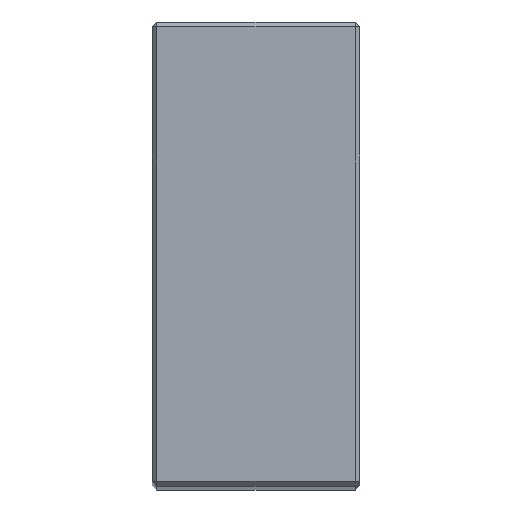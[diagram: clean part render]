
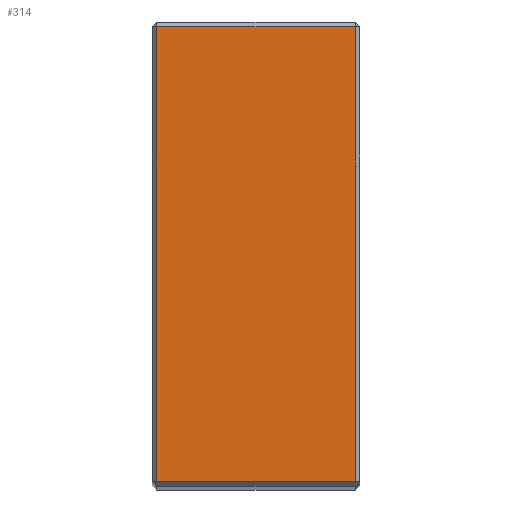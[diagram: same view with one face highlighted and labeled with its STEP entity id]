
A CAD part, top view. The second image highlights one B-rep face of the part: STEP entity #314.
In plain terms, the highlighted planar face has unit normal (0, 0, 1).
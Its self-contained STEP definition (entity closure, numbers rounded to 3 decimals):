
#15 = VECTOR ( 'NONE', #412, 1000. ) ;
#35 = VERTEX_POINT ( 'NONE', #445 ) ;
#42 = LINE ( 'NONE', #421, #353 ) ;
#53 = DIRECTION ( 'NONE',  ( 0., 0., -1. ) ) ;
#56 = VECTOR ( 'NONE', #243, 1000. ) ;
#107 = FACE_OUTER_BOUND ( 'NONE', #371, .T. ) ;
#122 = CARTESIAN_POINT ( 'NONE',  ( 20.5, 95., 223. ) ) ;
#139 = ORIENTED_EDGE ( 'NONE', *, *, #225, .T. ) ;
#187 = CARTESIAN_POINT ( 'NONE',  ( 20.5, 1., 223. ) ) ;
#202 = LINE ( 'NONE', #531, #326 ) ;
#205 = DIRECTION ( 'NONE',  ( 0., -1., 0. ) ) ;
#211 = CARTESIAN_POINT ( 'NONE',  ( 21.5, 96., 223. ) ) ;
#213 = LINE ( 'NONE', #234, #56 ) ;
#225 = EDGE_CURVE ( 'NONE', #227, #311, #213, .T. ) ;
#227 = VERTEX_POINT ( 'NONE', #350 ) ;
#234 = CARTESIAN_POINT ( 'NONE',  ( 21.5, 1., 223. ) ) ;
#243 = DIRECTION ( 'NONE',  ( 1., 0., 0. ) ) ;
#249 = PLANE ( 'NONE',  #321 ) ;
#253 = EDGE_CURVE ( 'NONE', #311, #259, #438, .T. ) ;
#259 = VERTEX_POINT ( 'NONE', #122 ) ;
#283 = ORIENTED_EDGE ( 'NONE', *, *, #434, .T. ) ;
#311 = VERTEX_POINT ( 'NONE', #187 ) ;
#314 = ADVANCED_FACE ( 'NONE', ( #107 ), #249, .F. ) ;
#321 = AXIS2_PLACEMENT_3D ( 'NONE', #211, #53, #559 ) ;
#326 = VECTOR ( 'NONE', #571, 1000. ) ;
#336 = EDGE_CURVE ( 'NONE', #35, #227, #42, .T. ) ;
#350 = CARTESIAN_POINT ( 'NONE',  ( -20.5, 1., 223. ) ) ;
#353 = VECTOR ( 'NONE', #205, 1000. ) ;
#371 = EDGE_LOOP ( 'NONE', ( #283, #626, #139, #386 ) ) ;
#386 = ORIENTED_EDGE ( 'NONE', *, *, #253, .T. ) ;
#412 = DIRECTION ( 'NONE',  ( 0., 1., 0. ) ) ;
#421 = CARTESIAN_POINT ( 'NONE',  ( -20.5, 96., 223. ) ) ;
#434 = EDGE_CURVE ( 'NONE', #259, #35, #202, .T. ) ;
#438 = LINE ( 'NONE', #577, #15 ) ;
#445 = CARTESIAN_POINT ( 'NONE',  ( -20.5, 95., 223. ) ) ;
#531 = CARTESIAN_POINT ( 'NONE',  ( -21.5, 95., 223. ) ) ;
#559 = DIRECTION ( 'NONE',  ( -1., 0., 0. ) ) ;
#571 = DIRECTION ( 'NONE',  ( -1., 0., 0. ) ) ;
#577 = CARTESIAN_POINT ( 'NONE',  ( 20.5, 96., 223. ) ) ;
#626 = ORIENTED_EDGE ( 'NONE', *, *, #336, .T. ) ;
